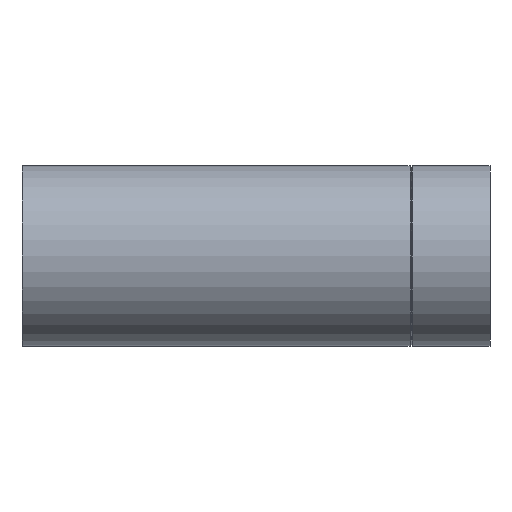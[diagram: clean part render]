
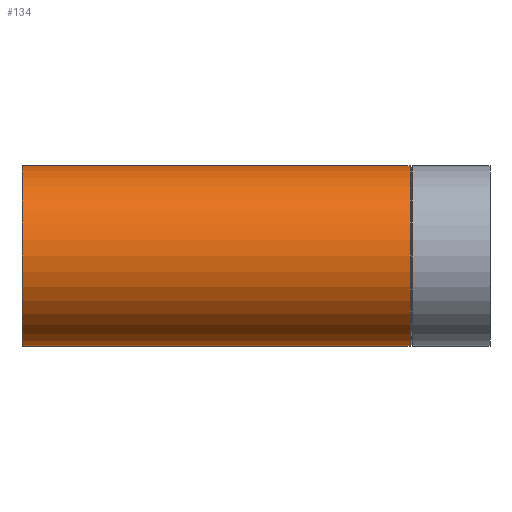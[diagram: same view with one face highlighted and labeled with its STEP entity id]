
A CAD part, left-side view. The second image highlights one B-rep face of the part: STEP entity #134.
In plain terms, the highlighted cylindrical face has radius 80.237 mm (diameter 160.475 mm), a full revolution.
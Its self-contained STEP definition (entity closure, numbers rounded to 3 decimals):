
#16=ELLIPSE($,#151,86.848,80.238);
#17=ELLIPSE($,#152,209.671,80.238);
#20=CYLINDRICAL_SURFACE($,#150,80.238);
#27=FACE_BOUND($,#51,.T.);
#28=FACE_BOUND($,#52,.T.);
#29=FACE_BOUND($,#53,.T.);
#51=EDGE_LOOP($,(#108,#109));
#52=EDGE_LOOP($,(#110));
#53=EDGE_LOOP($,(#111));
#71=CIRCLE($,#149,80.238);
#72=CIRCLE($,#153,80.238);
#80=VERTEX_POINT($,#223);
#81=VERTEX_POINT($,#226);
#82=VERTEX_POINT($,#227);
#83=VERTEX_POINT($,#230);
#93=EDGE_CURVE($,#80,#80,#71,.T.);
#94=EDGE_CURVE($,#81,#82,#16,.T.);
#95=EDGE_CURVE($,#82,#81,#17,.T.);
#96=EDGE_CURVE($,#83,#83,#72,.T.);
#108=ORIENTED_EDGE($,*,*,#94,.T.);
#109=ORIENTED_EDGE($,*,*,#95,.T.);
#110=ORIENTED_EDGE($,*,*,#96,.T.);
#111=ORIENTED_EDGE($,*,*,#93,.T.);
#134=ADVANCED_FACE($,(#27,#28,#29),#20,.T.);
#149=AXIS2_PLACEMENT_3D($,#224,#178,#179);
#150=AXIS2_PLACEMENT_3D($,#225,#180,#181);
#151=AXIS2_PLACEMENT_3D($,#228,#182,#183);
#152=AXIS2_PLACEMENT_3D($,#229,#184,#185);
#153=AXIS2_PLACEMENT_3D($,#231,#186,#187);
#178=DIRECTION('center_axis',(0.,1.,0.));
#179=DIRECTION('ref_axis',(1.,0.,0.));
#180=DIRECTION('center_axis',(0.,1.,0.));
#181=DIRECTION('ref_axis',(1.,0.,0.));
#182=DIRECTION('center_axis',(-0.383,-0.924,0.));
#183=DIRECTION('ref_axis',(0.924,-0.383,0.));
#184=DIRECTION('center_axis',(-0.924,0.383,0.));
#185=DIRECTION('ref_axis',(-0.383,-0.924,0.));
#186=DIRECTION('center_axis',(0.,-1.,0.));
#187=DIRECTION('ref_axis',(1.,0.,0.));
#223=CARTESIAN_POINT('',(80.238,70.927,0.));
#224=CARTESIAN_POINT('Origin',(0.,70.927,0.));
#225=CARTESIAN_POINT('Origin',(0.,0.,0.));
#226=CARTESIAN_POINT('',(0.,140.,-80.238));
#227=CARTESIAN_POINT('',(0.,140.,80.238));
#228=CARTESIAN_POINT('Origin',(0.,140.,0.));
#229=CARTESIAN_POINT('Origin',(0.,140.,0.));
#230=CARTESIAN_POINT('',(-80.238,415.,0.));
#231=CARTESIAN_POINT('Origin',(0.,415.,0.));
